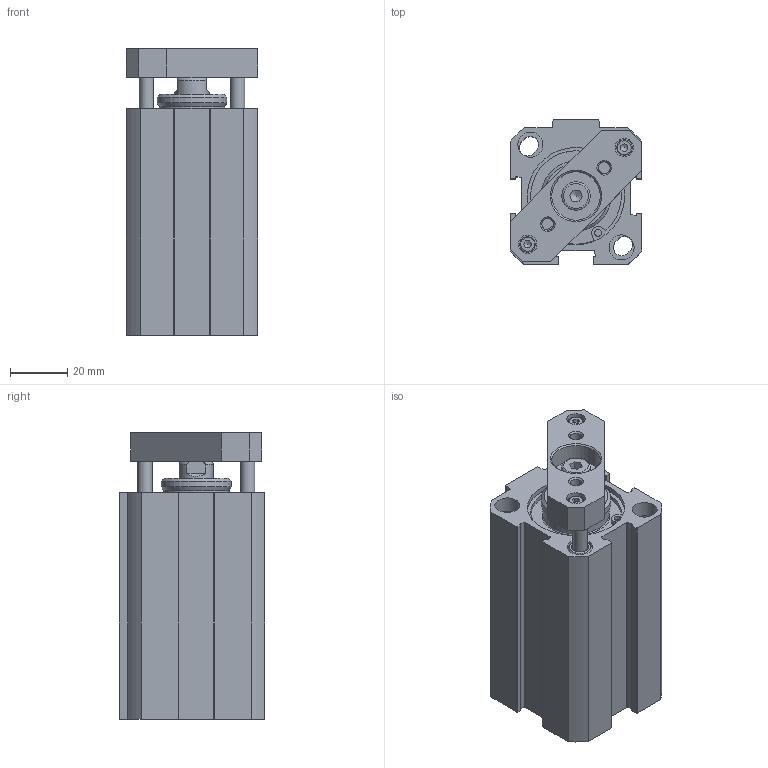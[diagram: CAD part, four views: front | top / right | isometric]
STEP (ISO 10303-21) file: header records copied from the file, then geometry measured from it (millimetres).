
FILE_DESCRIPTION(/* description */ ('Unknown'),/* implementation_level */ '2;1');
FILE_NAME(/* name */ 'FINT 32_40',/* time_stamp */ '2026-05-12T10:27:43+02:00',/* author */ ('Unknown'),/* organization */ ('Unknown'),/* preprocessor_version */ 'ST-DEVELOPER v18.102',/* originating_system */ 'Solid Edge',/* authorisation */ 'Unknown');
FILE_SCHEMA (('AUTOMOTIVE_DESIGN {1 0 10303 214 3 1 1}'));
Length unit declared in the file: millimetre
Products named in the file (7): FINT 32_40; Führungsstange; Profilrohr; Platte; Kolbenstange; Kit_1; Kit_2
Assembly tree (7 placements, depth 2):
  FINT 32_40
    Führungsstange  x2
    Profilrohr
    Platte
    Kolbenstange
    Kit_1
    Kit_2
Bounding box: 46 x 51 x 100.5 mm (x, y, z)
Volume: 133619.2 mm3; surface area: 62124.3 mm2
Topology: 9 solids, 10 shells, 311 faces, 721 edges, 463 vertices
Faces by surface type: plane 137, cylinder 104, cone 54, torus 16
Full cylindrical faces by diameter (mm): 1.6 x2, 2.459 x2, 2.5 x4, 3 x2, 3.5 x2, 4.134 x2, 4.92 x1, 5 x4, 5.5 x2, 6.25 x1, 6.5 x2, 8.566 x4, 8.7 x2, 8.8 x6, 9 x2, 10 x1, 12 x2, 12.54 x1, 13.7 x1, 14 x1, 16.32 x1, 16.5 x1, 17 x1, 23 x2, 24.5 x1, 32 x2, 33.7 x4, 34.1 x2, 35.8 x2
Entity records: 9849 total; most frequent: CARTESIAN_POINT 1420, DIRECTION 1406, ORIENTED_EDGE 1090, AXIS2_PLACEMENT_3D 574, EDGE_CURVE 545, FACE_BOUND 491, EDGE_LOOP 486, VERTEX_POINT 422
